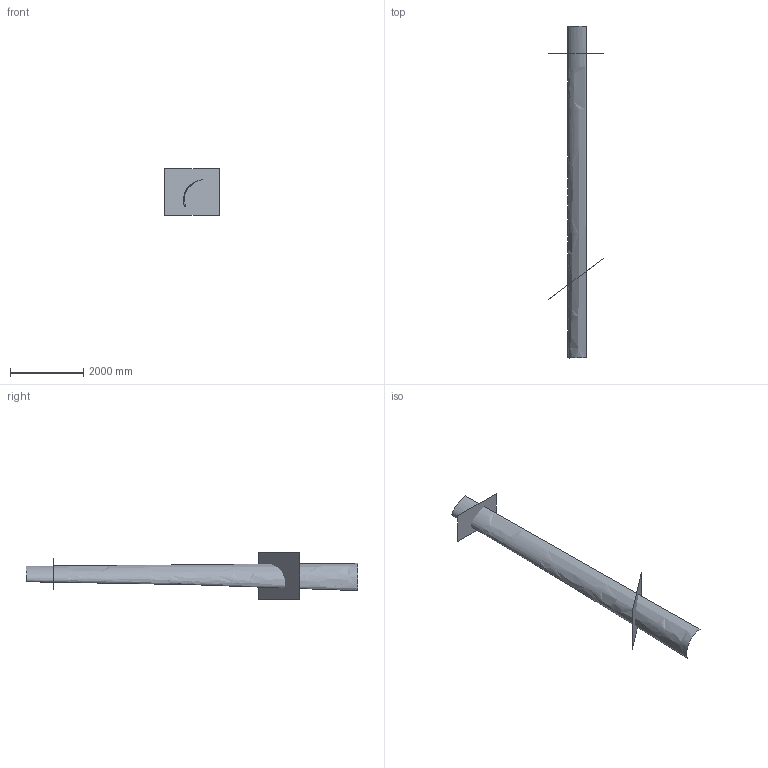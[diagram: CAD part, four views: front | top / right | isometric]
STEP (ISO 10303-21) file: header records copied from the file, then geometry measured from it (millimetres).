
FILE_DESCRIPTION((''),'2;1');
FILE_NAME('','2022-03-10T06:33:08',(''),(''),'','CADfix','');
FILE_SCHEMA(('AUTOMOTIVE_DESIGN { 1 0 10303 214 1 1 1 1 }'));
Length unit declared in the file: inch
Bounding box: 1485.9 x 9082.81 x 1273.5 mm (x, y, z)
Surface area: 11395806.4 mm2 (no closed solid volume)
Topology: 0 solids, 0 shells, 3 faces, 12 edges, 12 vertices
Faces by surface type: bspline 3
Entity records: 7206 total; most frequent: CARTESIAN_POINT 7184, B_SPLINE_SURFACE_WITH_KNOTS 3, DIMENSIONAL_EXPONENTS 2, PLANE_ANGLE_MEASURE_WITH_UNIT 1, LENGTH_MEASURE_WITH_UNIT 1, UNCERTAINTY_MEASURE_WITH_UNIT 1, GEOMETRIC_SET 1, GEOMETRICALLY_BOUNDED_SURFACE_SHAPE_REPRESENTATION 1
